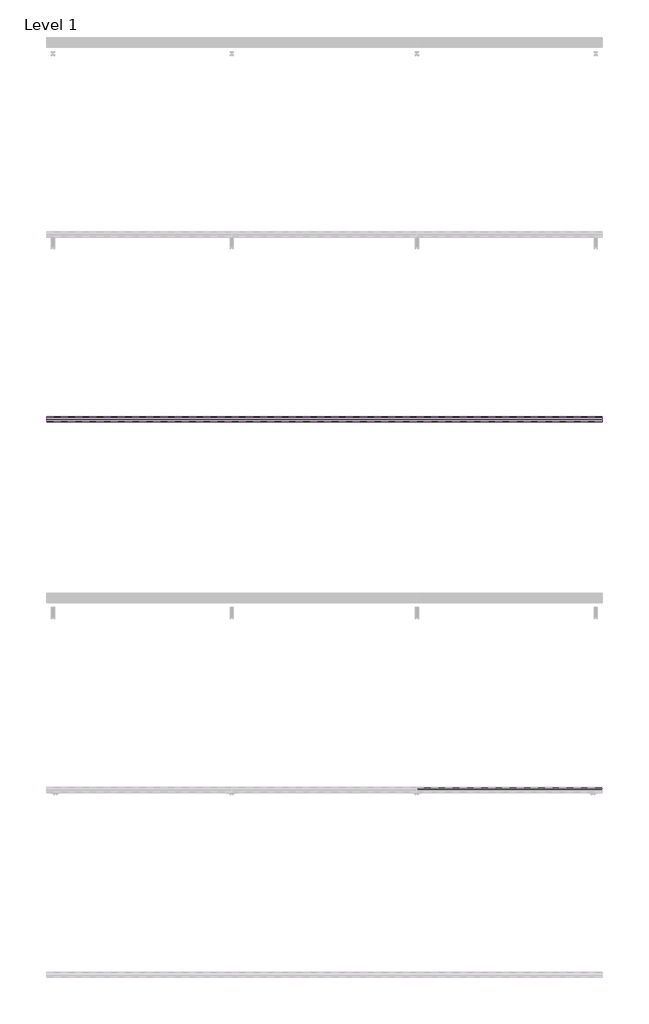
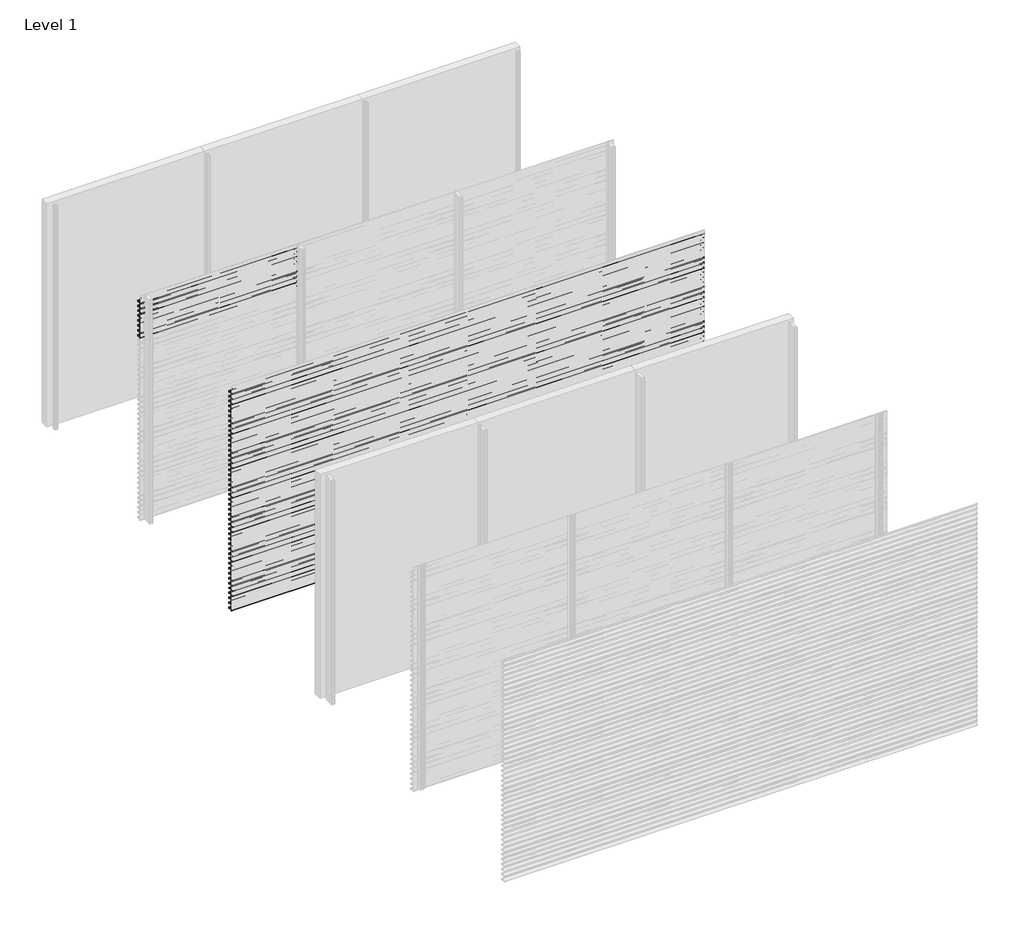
# One storey, part 5 of 27: 71 proxies.
"""IFC4 building model written with IfcOpenShell, lengths in millimetres."""

from ifc_helpers import new_model, si_unit, frame, origin, place, context, project, spatial, polyline, outline, extrude, element, save

model = new_model("IFC4")

# Units and contexts
model_context = context("Model", 3, world=origin())
ifc_project = project(units=[si_unit("LENGTHUNIT", "METRE", prefix="MILLI")], contexts=[model_context])

# Site, building, storey
site = spatial("IfcSite", under=ifc_project)
building = spatial("IfcBuilding", under=site)
storey = spatial("IfcBuildingStorey", under=building, Name="Level 1", Elevation=0.0)

# Proxies
placement = place(None, origin())
element("IfcBuildingElementProxy", 1, Name="Wall Sweeps", at=placement, inside=storey, context=model_context, shape_type="SweptSolid", body=[
    extrude(outline(polyline([(-47943.0, 2913.2), (-47943.0, 2893.5), (-47944.25, 2894.5866084), (-47944.25, 2912.4872415), (-47963.0322086, 2925.6010889), (-47995.1332975, 2893.5), (-47996.0525363, 2894.4192388), (-47964.1148087, 2926.3569665), (-47998.0, 2950.0158044), (-47998.0, 2970.0), (-47996.75, 2970.0), (-47996.75, 2950.7285629), (-47943.0, 2913.2)])), frame((0.0, 0.0, 0.0), z_axis=(1.0, 0.0, 0.0), x_axis=(0.0, 1.0, 0.0)), (0.0, 0.0, 1.0), 2000.0),
])
element("IfcBuildingElementProxy", 2, Name="Wall Sweeps", at=placement, inside=storey, context=model_context, shape_type="SweptSolid", body=[
    extrude(outline(polyline([(-47943.0, 2847.2), (-47943.0, 2827.5), (-47944.25, 2828.5866084), (-47944.25, 2846.4872415), (-47963.0322086, 2859.6010889), (-47995.1332975, 2827.5), (-47996.0525363, 2828.4192388), (-47964.1148087, 2860.3569665), (-47998.0, 2884.0158044), (-47998.0, 2904.0), (-47996.75, 2904.0), (-47996.75, 2884.7285629), (-47943.0, 2847.2)])), frame((0.0, 0.0, 0.0), z_axis=(1.0, 0.0, 0.0), x_axis=(0.0, 1.0, 0.0)), (0.0, 0.0, 1.0), 2000.0),
])
element("IfcBuildingElementProxy", 3, Name="Wall Sweeps", at=placement, inside=storey, context=model_context, shape_type="SweptSolid", body=[
    extrude(outline(polyline([(-47943.0, 2781.2), (-47943.0, 2761.5), (-47944.25, 2762.5866084), (-47944.25, 2780.4872415), (-47963.0322086, 2793.6010889), (-47995.1332975, 2761.5), (-47996.0525363, 2762.4192388), (-47964.1148087, 2794.3569665), (-47998.0, 2818.0158044), (-47998.0, 2838.0), (-47996.75, 2838.0), (-47996.75, 2818.7285629), (-47943.0, 2781.2)])), frame((0.0, 0.0, 0.0), z_axis=(1.0, 0.0, 0.0), x_axis=(0.0, 1.0, 0.0)), (0.0, 0.0, 1.0), 2000.0),
])
element("IfcBuildingElementProxy", 4, Name="Wall Sweeps", at=placement, inside=storey, context=model_context, shape_type="SweptSolid", body=[
    extrude(outline(polyline([(-47943.0, 2715.2), (-47943.0, 2695.5), (-47944.25, 2696.5866084), (-47944.25, 2714.4872415), (-47963.0322086, 2727.6010889), (-47995.1332975, 2695.5), (-47996.0525363, 2696.4192388), (-47964.1148087, 2728.3569665), (-47998.0, 2752.0158044), (-47998.0, 2772.0), (-47996.75, 2772.0), (-47996.75, 2752.7285629), (-47943.0, 2715.2)])), frame((0.0, 0.0, 0.0), z_axis=(1.0, 0.0, 0.0), x_axis=(0.0, 1.0, 0.0)), (0.0, 0.0, 1.0), 2000.0),
])
element("IfcBuildingElementProxy", 5, Name="Wall Sweeps", at=placement, inside=storey, context=model_context, shape_type="SweptSolid", body=[
    extrude(outline(polyline([(-47943.0, 2649.2), (-47943.0, 2629.5), (-47944.25, 2630.5866084), (-47944.25, 2648.4872415), (-47963.0322086, 2661.6010889), (-47995.1332975, 2629.5), (-47996.0525363, 2630.4192388), (-47964.1148087, 2662.3569665), (-47998.0, 2686.0158044), (-47998.0, 2706.0), (-47996.75, 2706.0), (-47996.75, 2686.7285629), (-47943.0, 2649.2)])), frame((0.0, 0.0, 0.0), z_axis=(1.0, 0.0, 0.0), x_axis=(0.0, 1.0, 0.0)), (0.0, 0.0, 1.0), 2000.0),
])
element("IfcBuildingElementProxy", 6, Name="Wall Sweeps", at=placement, inside=storey, context=model_context, shape_type="SweptSolid", body=[
    extrude(outline(polyline([(-47943.0, 2583.2), (-47943.0, 2563.5), (-47944.25, 2564.5866084), (-47944.25, 2582.4872415), (-47963.0322086, 2595.6010889), (-47995.1332975, 2563.5), (-47996.0525363, 2564.4192388), (-47964.1148087, 2596.3569665), (-47998.0, 2620.0158044), (-47998.0, 2640.0), (-47996.75, 2640.0), (-47996.75, 2620.7285629), (-47943.0, 2583.2)])), frame((0.0, 0.0, 0.0), z_axis=(1.0, 0.0, 0.0), x_axis=(0.0, 1.0, 0.0)), (0.0, 0.0, 1.0), 2000.0),
])
element("IfcBuildingElementProxy", 7, Name="Wall Sweeps", at=placement, inside=storey, context=model_context, shape_type="SweptSolid", body=[
    extrude(outline(polyline([(-47943.0, 2517.2), (-47943.0, 2497.5), (-47944.25, 2498.5866084), (-47944.25, 2516.4872415), (-47963.0322086, 2529.6010889), (-47995.1332975, 2497.5), (-47996.0525363, 2498.4192388), (-47964.1148087, 2530.3569665), (-47998.0, 2554.0158044), (-47998.0, 2574.0), (-47996.75, 2574.0), (-47996.75, 2554.7285629), (-47943.0, 2517.2)])), frame((0.0, 0.0, 0.0), z_axis=(1.0, 0.0, 0.0), x_axis=(0.0, 1.0, 0.0)), (0.0, 0.0, 1.0), 2000.0),
])
element("IfcBuildingElementProxy", 8, Name="Wall Sweeps", at=placement, inside=storey, context=model_context, shape_type="SweptSolid", body=[
    extrude(outline(polyline([(-47943.0, 2451.2), (-47943.0, 2431.5), (-47944.25, 2432.5866084), (-47944.25, 2450.4872415), (-47963.0322086, 2463.6010889), (-47995.1332975, 2431.5), (-47996.0525363, 2432.4192388), (-47964.1148087, 2464.3569665), (-47998.0, 2488.0158044), (-47998.0, 2508.0), (-47996.75, 2508.0), (-47996.75, 2488.7285629), (-47943.0, 2451.2)])), frame((0.0, 0.0, 0.0), z_axis=(1.0, 0.0, 0.0), x_axis=(0.0, 1.0, 0.0)), (0.0, 0.0, 1.0), 2000.0),
])
element("IfcBuildingElementProxy", 9, Name="Wall Sweeps", at=placement, inside=storey, context=model_context, shape_type="SweptSolid", body=[
    extrude(outline(polyline([(-49943.0, 2913.2), (-49943.0, 2893.5), (-49944.25, 2894.5866084), (-49944.25, 2912.4872415), (-49963.0322086, 2925.6010889), (-49995.1332975, 2893.5), (-49996.0525363, 2894.4192388), (-49964.1148087, 2926.3569665), (-49998.0, 2950.0158044), (-49998.0, 2970.0), (-49996.75, 2970.0), (-49996.75, 2950.7285629), (-49943.0, 2913.2)])), frame((0.0, 0.0, 0.0), z_axis=(1.0, 0.0, 0.0), x_axis=(0.0, 1.0, 0.0)), (0.0, 0.0, 1.0), 6000.0),
])
element("IfcBuildingElementProxy", 10, Name="Wall Sweeps", at=placement, inside=storey, context=model_context, shape_type="SweptSolid", body=[
    extrude(outline(polyline([(-49943.0, 2847.2), (-49943.0, 2827.5), (-49944.25, 2828.5866084), (-49944.25, 2846.4872415), (-49963.0322086, 2859.6010889), (-49995.1332975, 2827.5), (-49996.0525363, 2828.4192388), (-49964.1148087, 2860.3569665), (-49998.0, 2884.0158044), (-49998.0, 2904.0), (-49996.75, 2904.0), (-49996.75, 2884.7285629), (-49943.0, 2847.2)])), frame((0.0, 0.0, 0.0), z_axis=(1.0, 0.0, 0.0), x_axis=(0.0, 1.0, 0.0)), (0.0, 0.0, 1.0), 6000.0),
])
element("IfcBuildingElementProxy", 11, Name="Wall Sweeps", at=placement, inside=storey, context=model_context, shape_type="SweptSolid", body=[
    extrude(outline(polyline([(-49943.0, 2781.2), (-49943.0, 2761.5), (-49944.25, 2762.5866084), (-49944.25, 2780.4872415), (-49963.0322086, 2793.6010889), (-49995.1332975, 2761.5), (-49996.0525363, 2762.4192388), (-49964.1148087, 2794.3569665), (-49998.0, 2818.0158044), (-49998.0, 2838.0), (-49996.75, 2838.0), (-49996.75, 2818.7285629), (-49943.0, 2781.2)])), frame((0.0, 0.0, 0.0), z_axis=(1.0, 0.0, 0.0), x_axis=(0.0, 1.0, 0.0)), (0.0, 0.0, 1.0), 6000.0),
])
element("IfcBuildingElementProxy", 12, Name="Wall Sweeps", at=placement, inside=storey, context=model_context, shape_type="SweptSolid", body=[
    extrude(outline(polyline([(-49943.0, 2715.2), (-49943.0, 2695.5), (-49944.25, 2696.5866084), (-49944.25, 2714.4872415), (-49963.0322086, 2727.6010889), (-49995.1332975, 2695.5), (-49996.0525363, 2696.4192388), (-49964.1148087, 2728.3569665), (-49998.0, 2752.0158044), (-49998.0, 2772.0), (-49996.75, 2772.0), (-49996.75, 2752.7285629), (-49943.0, 2715.2)])), frame((0.0, 0.0, 0.0), z_axis=(1.0, 0.0, 0.0), x_axis=(0.0, 1.0, 0.0)), (0.0, 0.0, 1.0), 6000.0),
])
element("IfcBuildingElementProxy", 13, Name="Wall Sweeps", at=placement, inside=storey, context=model_context, shape_type="SweptSolid", body=[
    extrude(outline(polyline([(-49943.0, 2649.2), (-49943.0, 2629.5), (-49944.25, 2630.5866084), (-49944.25, 2648.4872415), (-49963.0322086, 2661.6010889), (-49995.1332975, 2629.5), (-49996.0525363, 2630.4192388), (-49964.1148087, 2662.3569665), (-49998.0, 2686.0158044), (-49998.0, 2706.0), (-49996.75, 2706.0), (-49996.75, 2686.7285629), (-49943.0, 2649.2)])), frame((0.0, 0.0, 0.0), z_axis=(1.0, 0.0, 0.0), x_axis=(0.0, 1.0, 0.0)), (0.0, 0.0, 1.0), 6000.0),
])
element("IfcBuildingElementProxy", 14, Name="Wall Sweeps", at=placement, inside=storey, context=model_context, shape_type="SweptSolid", body=[
    extrude(outline(polyline([(-49943.0, 2583.2), (-49943.0, 2563.5), (-49944.25, 2564.5866084), (-49944.25, 2582.4872415), (-49963.0322086, 2595.6010889), (-49995.1332975, 2563.5), (-49996.0525363, 2564.4192388), (-49964.1148087, 2596.3569665), (-49998.0, 2620.0158044), (-49998.0, 2640.0), (-49996.75, 2640.0), (-49996.75, 2620.7285629), (-49943.0, 2583.2)])), frame((0.0, 0.0, 0.0), z_axis=(1.0, 0.0, 0.0), x_axis=(0.0, 1.0, 0.0)), (0.0, 0.0, 1.0), 6000.0),
])
element("IfcBuildingElementProxy", 15, Name="Wall Sweeps", at=placement, inside=storey, context=model_context, shape_type="SweptSolid", body=[
    extrude(outline(polyline([(-49943.0, 2517.2), (-49943.0, 2497.5), (-49944.25, 2498.5866084), (-49944.25, 2516.4872415), (-49963.0322086, 2529.6010889), (-49995.1332975, 2497.5), (-49996.0525363, 2498.4192388), (-49964.1148087, 2530.3569665), (-49998.0, 2554.0158044), (-49998.0, 2574.0), (-49996.75, 2574.0), (-49996.75, 2554.7285629), (-49943.0, 2517.2)])), frame((0.0, 0.0, 0.0), z_axis=(1.0, 0.0, 0.0), x_axis=(0.0, 1.0, 0.0)), (0.0, 0.0, 1.0), 6000.0),
])
element("IfcBuildingElementProxy", 16, Name="Wall Sweeps", at=placement, inside=storey, context=model_context, shape_type="SweptSolid", body=[
    extrude(outline(polyline([(-49943.0, 2451.2), (-49943.0, 2431.5), (-49944.25, 2432.5866084), (-49944.25, 2450.4872415), (-49963.0322086, 2463.6010889), (-49995.1332975, 2431.5), (-49996.0525363, 2432.4192388), (-49964.1148087, 2464.3569665), (-49998.0, 2488.0158044), (-49998.0, 2508.0), (-49996.75, 2508.0), (-49996.75, 2488.7285629), (-49943.0, 2451.2)])), frame((0.0, 0.0, 0.0), z_axis=(1.0, 0.0, 0.0), x_axis=(0.0, 1.0, 0.0)), (0.0, 0.0, 1.0), 6000.0),
])
element("IfcBuildingElementProxy", 17, Name="Wall Sweeps", at=placement, inside=storey, context=model_context, shape_type="SweptSolid", body=[
    extrude(outline(polyline([(-49943.0, 2385.2), (-49943.0, 2365.5), (-49944.25, 2366.5866084), (-49944.25, 2384.4872415), (-49963.0322086, 2397.6010889), (-49995.1332975, 2365.5), (-49996.0525363, 2366.4192388), (-49964.1148087, 2398.3569665), (-49998.0, 2422.0158044), (-49998.0, 2442.0), (-49996.75, 2442.0), (-49996.75, 2422.7285629), (-49943.0, 2385.2)])), frame((0.0, 0.0, 0.0), z_axis=(1.0, 0.0, 0.0), x_axis=(0.0, 1.0, 0.0)), (0.0, 0.0, 1.0), 6000.0),
])
element("IfcBuildingElementProxy", 18, Name="Wall Sweeps", at=placement, inside=storey, context=model_context, shape_type="SweptSolid", body=[
    extrude(outline(polyline([(-49943.0, 2319.2), (-49943.0, 2299.5), (-49944.25, 2300.5866084), (-49944.25, 2318.4872415), (-49963.0322086, 2331.6010889), (-49995.1332975, 2299.5), (-49996.0525363, 2300.4192388), (-49964.1148087, 2332.3569665), (-49998.0, 2356.0158044), (-49998.0, 2376.0), (-49996.75, 2376.0), (-49996.75, 2356.7285629), (-49943.0, 2319.2)])), frame((0.0, 0.0, 0.0), z_axis=(1.0, 0.0, 0.0), x_axis=(0.0, 1.0, 0.0)), (0.0, 0.0, 1.0), 6000.0),
])
element("IfcBuildingElementProxy", 19, Name="Wall Sweeps", at=placement, inside=storey, context=model_context, shape_type="SweptSolid", body=[
    extrude(outline(polyline([(-49943.0, 2253.2), (-49943.0, 2233.5), (-49944.25, 2234.5866084), (-49944.25, 2252.4872415), (-49963.0322086, 2265.6010889), (-49995.1332975, 2233.5), (-49996.0525363, 2234.4192388), (-49964.1148087, 2266.3569665), (-49998.0, 2290.0158044), (-49998.0, 2310.0), (-49996.75, 2310.0), (-49996.75, 2290.7285629), (-49943.0, 2253.2)])), frame((0.0, 0.0, 0.0), z_axis=(1.0, 0.0, 0.0), x_axis=(0.0, 1.0, 0.0)), (0.0, 0.0, 1.0), 6000.0),
])
element("IfcBuildingElementProxy", 20, Name="Wall Sweeps", at=placement, inside=storey, context=model_context, shape_type="SweptSolid", body=[
    extrude(outline(polyline([(-49943.0, 2187.2), (-49943.0, 2167.5), (-49944.25, 2168.5866084), (-49944.25, 2186.4872415), (-49963.0322086, 2199.6010889), (-49995.1332975, 2167.5), (-49996.0525363, 2168.4192388), (-49964.1148087, 2200.3569665), (-49998.0, 2224.0158044), (-49998.0, 2244.0), (-49996.75, 2244.0), (-49996.75, 2224.7285629), (-49943.0, 2187.2)])), frame((0.0, 0.0, 0.0), z_axis=(1.0, 0.0, 0.0), x_axis=(0.0, 1.0, 0.0)), (0.0, 0.0, 1.0), 6000.0),
])
element("IfcBuildingElementProxy", 21, Name="Wall Sweeps", at=placement, inside=storey, context=model_context, shape_type="SweptSolid", body=[
    extrude(outline(polyline([(-49943.0, 2121.2), (-49943.0, 2101.5), (-49944.25, 2102.5866084), (-49944.25, 2120.4872415), (-49963.0322086, 2133.6010889), (-49995.1332975, 2101.5), (-49996.0525363, 2102.4192388), (-49964.1148087, 2134.3569665), (-49998.0, 2158.0158044), (-49998.0, 2178.0), (-49996.75, 2178.0), (-49996.75, 2158.7285629), (-49943.0, 2121.2)])), frame((0.0, 0.0, 0.0), z_axis=(1.0, 0.0, 0.0), x_axis=(0.0, 1.0, 0.0)), (0.0, 0.0, 1.0), 6000.0),
])
element("IfcBuildingElementProxy", 22, Name="Wall Sweeps", at=placement, inside=storey, context=model_context, shape_type="SweptSolid", body=[
    extrude(outline(polyline([(-49943.0, 2055.2), (-49943.0, 2035.5), (-49944.25, 2036.5866084), (-49944.25, 2054.4872415), (-49963.0322086, 2067.6010889), (-49995.1332975, 2035.5), (-49996.0525363, 2036.4192388), (-49964.1148087, 2068.3569665), (-49998.0, 2092.0158044), (-49998.0, 2112.0), (-49996.75, 2112.0), (-49996.75, 2092.7285629), (-49943.0, 2055.2)])), frame((0.0, 0.0, 0.0), z_axis=(1.0, 0.0, 0.0), x_axis=(0.0, 1.0, 0.0)), (0.0, 0.0, 1.0), 6000.0),
])
element("IfcBuildingElementProxy", 23, Name="Wall Sweeps", at=placement, inside=storey, context=model_context, shape_type="SweptSolid", body=[
    extrude(outline(polyline([(-49943.0, 1989.2), (-49943.0, 1969.5), (-49944.25, 1970.5866084), (-49944.25, 1988.4872415), (-49963.0322086, 2001.6010889), (-49995.1332975, 1969.5), (-49996.0525363, 1970.4192388), (-49964.1148087, 2002.3569665), (-49998.0, 2026.0158044), (-49998.0, 2046.0), (-49996.75, 2046.0), (-49996.75, 2026.7285629), (-49943.0, 1989.2)])), frame((0.0, 0.0, 0.0), z_axis=(1.0, 0.0, 0.0), x_axis=(0.0, 1.0, 0.0)), (0.0, 0.0, 1.0), 6000.0),
])
element("IfcBuildingElementProxy", 24, Name="Wall Sweeps", at=placement, inside=storey, context=model_context, shape_type="SweptSolid", body=[
    extrude(outline(polyline([(-49943.0, 1923.2), (-49943.0, 1903.5), (-49944.25, 1904.5866084), (-49944.25, 1922.4872415), (-49963.0322086, 1935.6010889), (-49995.1332975, 1903.5), (-49996.0525363, 1904.4192388), (-49964.1148087, 1936.3569665), (-49998.0, 1960.0158044), (-49998.0, 1980.0), (-49996.75, 1980.0), (-49996.75, 1960.7285629), (-49943.0, 1923.2)])), frame((0.0, 0.0, 0.0), z_axis=(1.0, 0.0, 0.0), x_axis=(0.0, 1.0, 0.0)), (0.0, 0.0, 1.0), 6000.0),
])
element("IfcBuildingElementProxy", 25, Name="Wall Sweeps", at=placement, inside=storey, context=model_context, shape_type="SweptSolid", body=[
    extrude(outline(polyline([(-49943.0, 1857.2), (-49943.0, 1837.5), (-49944.25, 1838.5866084), (-49944.25, 1856.4872415), (-49963.0322086, 1869.6010889), (-49995.1332975, 1837.5), (-49996.0525363, 1838.4192388), (-49964.1148087, 1870.3569665), (-49998.0, 1894.0158044), (-49998.0, 1914.0), (-49996.75, 1914.0), (-49996.75, 1894.7285629), (-49943.0, 1857.2)])), frame((0.0, 0.0, 0.0), z_axis=(1.0, 0.0, 0.0), x_axis=(0.0, 1.0, 0.0)), (0.0, 0.0, 1.0), 6000.0),
])
element("IfcBuildingElementProxy", 26, Name="Wall Sweeps", at=placement, inside=storey, context=model_context, shape_type="SweptSolid", body=[
    extrude(outline(polyline([(-49943.0, 1791.2), (-49943.0, 1771.5), (-49944.25, 1772.5866084), (-49944.25, 1790.4872415), (-49963.0322086, 1803.6010889), (-49995.1332975, 1771.5), (-49996.0525363, 1772.4192388), (-49964.1148087, 1804.3569665), (-49998.0, 1828.0158044), (-49998.0, 1848.0), (-49996.75, 1848.0), (-49996.75, 1828.7285629), (-49943.0, 1791.2)])), frame((0.0, 0.0, 0.0), z_axis=(1.0, 0.0, 0.0), x_axis=(0.0, 1.0, 0.0)), (0.0, 0.0, 1.0), 6000.0),
])
element("IfcBuildingElementProxy", 27, Name="Wall Sweeps", at=placement, inside=storey, context=model_context, shape_type="SweptSolid", body=[
    extrude(outline(polyline([(-49943.0, 1725.2), (-49943.0, 1705.5), (-49944.25, 1706.5866084), (-49944.25, 1724.4872415), (-49963.0322086, 1737.6010889), (-49995.1332975, 1705.5), (-49996.0525363, 1706.4192388), (-49964.1148087, 1738.3569665), (-49998.0, 1762.0158044), (-49998.0, 1782.0), (-49996.75, 1782.0), (-49996.75, 1762.7285629), (-49943.0, 1725.2)])), frame((0.0, 0.0, 0.0), z_axis=(1.0, 0.0, 0.0), x_axis=(0.0, 1.0, 0.0)), (0.0, 0.0, 1.0), 6000.0),
])
element("IfcBuildingElementProxy", 28, Name="Wall Sweeps", at=placement, inside=storey, context=model_context, shape_type="SweptSolid", body=[
    extrude(outline(polyline([(-49943.0, 1659.2), (-49943.0, 1639.5), (-49944.25, 1640.5866084), (-49944.25, 1658.4872415), (-49963.0322086, 1671.6010889), (-49995.1332975, 1639.5), (-49996.0525363, 1640.4192388), (-49964.1148087, 1672.3569665), (-49998.0, 1696.0158044), (-49998.0, 1716.0), (-49996.75, 1716.0), (-49996.75, 1696.7285629), (-49943.0, 1659.2)])), frame((0.0, 0.0, 0.0), z_axis=(1.0, 0.0, 0.0), x_axis=(0.0, 1.0, 0.0)), (0.0, 0.0, 1.0), 6000.0),
])
element("IfcBuildingElementProxy", 29, Name="Wall Sweeps", at=placement, inside=storey, context=model_context, shape_type="SweptSolid", body=[
    extrude(outline(polyline([(-49943.0, 1593.2), (-49943.0, 1573.5), (-49944.25, 1574.5866084), (-49944.25, 1592.4872415), (-49963.0322086, 1605.6010889), (-49995.1332975, 1573.5), (-49996.0525363, 1574.4192388), (-49964.1148087, 1606.3569665), (-49998.0, 1630.0158044), (-49998.0, 1650.0), (-49996.75, 1650.0), (-49996.75, 1630.7285629), (-49943.0, 1593.2)])), frame((0.0, 0.0, 0.0), z_axis=(1.0, 0.0, 0.0), x_axis=(0.0, 1.0, 0.0)), (0.0, 0.0, 1.0), 6000.0),
])
element("IfcBuildingElementProxy", 30, Name="Wall Sweeps", at=placement, inside=storey, context=model_context, shape_type="SweptSolid", body=[
    extrude(outline(polyline([(-49943.0, 1527.2), (-49943.0, 1507.5), (-49944.25, 1508.5866084), (-49944.25, 1526.4872415), (-49963.0322086, 1539.6010889), (-49995.1332975, 1507.5), (-49996.0525363, 1508.4192388), (-49964.1148087, 1540.3569665), (-49998.0, 1564.0158044), (-49998.0, 1584.0), (-49996.75, 1584.0), (-49996.75, 1564.7285629), (-49943.0, 1527.2)])), frame((0.0, 0.0, 0.0), z_axis=(1.0, 0.0, 0.0), x_axis=(0.0, 1.0, 0.0)), (0.0, 0.0, 1.0), 6000.0),
])
element("IfcBuildingElementProxy", 31, Name="Wall Sweeps", at=placement, inside=storey, context=model_context, shape_type="SweptSolid", body=[
    extrude(outline(polyline([(-49943.0, 1461.2), (-49943.0, 1441.5), (-49944.25, 1442.5866084), (-49944.25, 1460.4872415), (-49963.0322086, 1473.6010889), (-49995.1332975, 1441.5), (-49996.0525363, 1442.4192388), (-49964.1148087, 1474.3569665), (-49998.0, 1498.0158044), (-49998.0, 1518.0), (-49996.75, 1518.0), (-49996.75, 1498.7285629), (-49943.0, 1461.2)])), frame((0.0, 0.0, 0.0), z_axis=(1.0, 0.0, 0.0), x_axis=(0.0, 1.0, 0.0)), (0.0, 0.0, 1.0), 6000.0),
])
element("IfcBuildingElementProxy", 32, Name="Wall Sweeps", at=placement, inside=storey, context=model_context, shape_type="SweptSolid", body=[
    extrude(outline(polyline([(-49943.0, 1395.2), (-49943.0, 1375.5), (-49944.25, 1376.5866084), (-49944.25, 1394.4872415), (-49963.0322086, 1407.6010889), (-49995.1332975, 1375.5), (-49996.0525363, 1376.4192388), (-49964.1148087, 1408.3569665), (-49998.0, 1432.0158044), (-49998.0, 1452.0), (-49996.75, 1452.0), (-49996.75, 1432.7285629), (-49943.0, 1395.2)])), frame((0.0, 0.0, 0.0), z_axis=(1.0, 0.0, 0.0), x_axis=(0.0, 1.0, 0.0)), (0.0, 0.0, 1.0), 6000.0),
])
element("IfcBuildingElementProxy", 33, Name="Wall Sweeps", at=placement, inside=storey, context=model_context, shape_type="SweptSolid", body=[
    extrude(outline(polyline([(-49943.0, 1329.2), (-49943.0, 1309.5), (-49944.25, 1310.5866084), (-49944.25, 1328.4872415), (-49963.0322086, 1341.6010889), (-49995.1332975, 1309.5), (-49996.0525363, 1310.4192388), (-49964.1148087, 1342.3569665), (-49998.0, 1366.0158044), (-49998.0, 1386.0), (-49996.75, 1386.0), (-49996.75, 1366.7285629), (-49943.0, 1329.2)])), frame((0.0, 0.0, 0.0), z_axis=(1.0, 0.0, 0.0), x_axis=(0.0, 1.0, 0.0)), (0.0, 0.0, 1.0), 6000.0),
])
element("IfcBuildingElementProxy", 34, Name="Wall Sweeps", at=placement, inside=storey, context=model_context, shape_type="SweptSolid", body=[
    extrude(outline(polyline([(-49943.0, 1263.2), (-49943.0, 1243.5), (-49944.25, 1244.5866084), (-49944.25, 1262.4872415), (-49963.0322086, 1275.6010889), (-49995.1332975, 1243.5), (-49996.0525363, 1244.4192388), (-49964.1148087, 1276.3569665), (-49998.0, 1300.0158044), (-49998.0, 1320.0), (-49996.75, 1320.0), (-49996.75, 1300.7285629), (-49943.0, 1263.2)])), frame((0.0, 0.0, 0.0), z_axis=(1.0, 0.0, 0.0), x_axis=(0.0, 1.0, 0.0)), (0.0, 0.0, 1.0), 6000.0),
])
element("IfcBuildingElementProxy", 35, Name="Wall Sweeps", at=placement, inside=storey, context=model_context, shape_type="SweptSolid", body=[
    extrude(outline(polyline([(-49943.0, 1197.2), (-49943.0, 1177.5), (-49944.25, 1178.5866084), (-49944.25, 1196.4872415), (-49963.0322086, 1209.6010889), (-49995.1332975, 1177.5), (-49996.0525363, 1178.4192388), (-49964.1148087, 1210.3569665), (-49998.0, 1234.0158044), (-49998.0, 1254.0), (-49996.75, 1254.0), (-49996.75, 1234.7285629), (-49943.0, 1197.2)])), frame((0.0, 0.0, 0.0), z_axis=(1.0, 0.0, 0.0), x_axis=(0.0, 1.0, 0.0)), (0.0, 0.0, 1.0), 6000.0),
])
element("IfcBuildingElementProxy", 36, Name="Wall Sweeps", at=placement, inside=storey, context=model_context, shape_type="SweptSolid", body=[
    extrude(outline(polyline([(-49943.0, 1131.2), (-49943.0, 1111.5), (-49944.25, 1112.5866084), (-49944.25, 1130.4872415), (-49963.0322086, 1143.6010889), (-49995.1332975, 1111.5), (-49996.0525363, 1112.4192388), (-49964.1148087, 1144.3569665), (-49998.0, 1168.0158044), (-49998.0, 1188.0), (-49996.75, 1188.0), (-49996.75, 1168.7285629), (-49943.0, 1131.2)])), frame((0.0, 0.0, 0.0), z_axis=(1.0, 0.0, 0.0), x_axis=(0.0, 1.0, 0.0)), (0.0, 0.0, 1.0), 6000.0),
])
element("IfcBuildingElementProxy", 37, Name="Wall Sweeps", at=placement, inside=storey, context=model_context, shape_type="SweptSolid", body=[
    extrude(outline(polyline([(-49943.0, 1065.2), (-49943.0, 1045.5), (-49944.25, 1046.5866084), (-49944.25, 1064.4872415), (-49963.0322086, 1077.6010889), (-49995.1332975, 1045.5), (-49996.0525363, 1046.4192388), (-49964.1148087, 1078.3569665), (-49998.0, 1102.0158044), (-49998.0, 1122.0), (-49996.75, 1122.0), (-49996.75, 1102.7285629), (-49943.0, 1065.2)])), frame((0.0, 0.0, 0.0), z_axis=(1.0, 0.0, 0.0), x_axis=(0.0, 1.0, 0.0)), (0.0, 0.0, 1.0), 6000.0),
])
element("IfcBuildingElementProxy", 38, Name="Wall Sweeps", at=placement, inside=storey, context=model_context, shape_type="SweptSolid", body=[
    extrude(outline(polyline([(-49943.0, 999.2), (-49943.0, 979.5), (-49944.25, 980.5866084), (-49944.25, 998.4872415), (-49963.0322086, 1011.6010889), (-49995.1332975, 979.5), (-49996.0525363, 980.4192388), (-49964.1148087, 1012.3569665), (-49998.0, 1036.0158044), (-49998.0, 1056.0), (-49996.75, 1056.0), (-49996.75, 1036.7285629), (-49943.0, 999.2)])), frame((0.0, 0.0, 0.0), z_axis=(1.0, 0.0, 0.0), x_axis=(0.0, 1.0, 0.0)), (0.0, 0.0, 1.0), 6000.0),
])
element("IfcBuildingElementProxy", 39, Name="Wall Sweeps", at=placement, inside=storey, context=model_context, shape_type="SweptSolid", body=[
    extrude(outline(polyline([(-49943.0, 933.2), (-49943.0, 913.5), (-49944.25, 914.5866084), (-49944.25, 932.4872415), (-49963.0322086, 945.6010889), (-49995.1332975, 913.5), (-49996.0525363, 914.4192388), (-49964.1148087, 946.3569665), (-49998.0, 970.0158044), (-49998.0, 990.0), (-49996.75, 990.0), (-49996.75, 970.7285629), (-49943.0, 933.2)])), frame((0.0, 0.0, 0.0), z_axis=(1.0, 0.0, 0.0), x_axis=(0.0, 1.0, 0.0)), (0.0, 0.0, 1.0), 6000.0),
])
element("IfcBuildingElementProxy", 40, Name="Wall Sweeps", at=placement, inside=storey, context=model_context, shape_type="SweptSolid", body=[
    extrude(outline(polyline([(-49943.0, 867.2), (-49943.0, 847.5), (-49944.25, 848.5866084), (-49944.25, 866.4872415), (-49963.0322086, 879.6010889), (-49995.1332975, 847.5), (-49996.0525363, 848.4192388), (-49964.1148087, 880.3569665), (-49998.0, 904.0158044), (-49998.0, 924.0), (-49996.75, 924.0), (-49996.75, 904.7285629), (-49943.0, 867.2)])), frame((0.0, 0.0, 0.0), z_axis=(1.0, 0.0, 0.0), x_axis=(0.0, 1.0, 0.0)), (0.0, 0.0, 1.0), 6000.0),
])
element("IfcBuildingElementProxy", 41, Name="Wall Sweeps", at=placement, inside=storey, context=model_context, shape_type="SweptSolid", body=[
    extrude(outline(polyline([(-49943.0, 801.2), (-49943.0, 781.5), (-49944.25, 782.5866084), (-49944.25, 800.4872415), (-49963.0322086, 813.6010889), (-49995.1332975, 781.5), (-49996.0525363, 782.4192388), (-49964.1148087, 814.3569665), (-49998.0, 838.0158044), (-49998.0, 858.0), (-49996.75, 858.0), (-49996.75, 838.7285629), (-49943.0, 801.2)])), frame((0.0, 0.0, 0.0), z_axis=(1.0, 0.0, 0.0), x_axis=(0.0, 1.0, 0.0)), (0.0, 0.0, 1.0), 6000.0),
])
element("IfcBuildingElementProxy", 42, Name="Wall Sweeps", at=placement, inside=storey, context=model_context, shape_type="SweptSolid", body=[
    extrude(outline(polyline([(-49943.0, 735.2), (-49943.0, 715.5), (-49944.25, 716.5866084), (-49944.25, 734.4872415), (-49963.0322086, 747.6010889), (-49995.1332975, 715.5), (-49996.0525363, 716.4192388), (-49964.1148087, 748.3569665), (-49998.0, 772.0158044), (-49998.0, 792.0), (-49996.75, 792.0), (-49996.75, 772.7285629), (-49943.0, 735.2)])), frame((0.0, 0.0, 0.0), z_axis=(1.0, 0.0, 0.0), x_axis=(0.0, 1.0, 0.0)), (0.0, 0.0, 1.0), 6000.0),
])
element("IfcBuildingElementProxy", 43, Name="Wall Sweeps", at=placement, inside=storey, context=model_context, shape_type="SweptSolid", body=[
    extrude(outline(polyline([(-49943.0, 669.2), (-49943.0, 649.5), (-49944.25, 650.5866084), (-49944.25, 668.4872415), (-49963.0322086, 681.6010889), (-49995.1332975, 649.5), (-49996.0525363, 650.4192388), (-49964.1148087, 682.3569665), (-49998.0, 706.0158044), (-49998.0, 726.0), (-49996.75, 726.0), (-49996.75, 706.7285629), (-49943.0, 669.2)])), frame((0.0, 0.0, 0.0), z_axis=(1.0, 0.0, 0.0), x_axis=(0.0, 1.0, 0.0)), (0.0, 0.0, 1.0), 6000.0),
])
element("IfcBuildingElementProxy", 44, Name="Wall Sweeps", at=placement, inside=storey, context=model_context, shape_type="SweptSolid", body=[
    extrude(outline(polyline([(-49943.0, 603.2), (-49943.0, 583.5), (-49944.25, 584.5866084), (-49944.25, 602.4872415), (-49963.0322086, 615.6010889), (-49995.1332975, 583.5), (-49996.0525363, 584.4192388), (-49964.1148087, 616.3569665), (-49998.0, 640.0158044), (-49998.0, 660.0), (-49996.75, 660.0), (-49996.75, 640.7285629), (-49943.0, 603.2)])), frame((0.0, 0.0, 0.0), z_axis=(1.0, 0.0, 0.0), x_axis=(0.0, 1.0, 0.0)), (0.0, 0.0, 1.0), 6000.0),
])
element("IfcBuildingElementProxy", 45, Name="Wall Sweeps", at=placement, inside=storey, context=model_context, shape_type="SweptSolid", body=[
    extrude(outline(polyline([(-49943.0, 537.2), (-49943.0, 517.5), (-49944.25, 518.5866084), (-49944.25, 536.4872415), (-49963.0322086, 549.6010889), (-49995.1332975, 517.5), (-49996.0525363, 518.4192388), (-49964.1148087, 550.3569665), (-49998.0, 574.0158044), (-49998.0, 594.0), (-49996.75, 594.0), (-49996.75, 574.7285629), (-49943.0, 537.2)])), frame((0.0, 0.0, 0.0), z_axis=(1.0, 0.0, 0.0), x_axis=(0.0, 1.0, 0.0)), (0.0, 0.0, 1.0), 6000.0),
])
element("IfcBuildingElementProxy", 46, Name="Wall Sweeps", at=placement, inside=storey, context=model_context, shape_type="SweptSolid", body=[
    extrude(outline(polyline([(-49943.0, 471.2), (-49943.0, 451.5), (-49944.25, 452.5866084), (-49944.25, 470.4872415), (-49963.0322086, 483.6010889), (-49995.1332975, 451.5), (-49996.0525363, 452.4192388), (-49964.1148087, 484.3569665), (-49998.0, 508.0158044), (-49998.0, 528.0), (-49996.75, 528.0), (-49996.75, 508.7285629), (-49943.0, 471.2)])), frame((0.0, 0.0, 0.0), z_axis=(1.0, 0.0, 0.0), x_axis=(0.0, 1.0, 0.0)), (0.0, 0.0, 1.0), 6000.0),
])
element("IfcBuildingElementProxy", 47, Name="Wall Sweeps", at=placement, inside=storey, context=model_context, shape_type="SweptSolid", body=[
    extrude(outline(polyline([(-49943.0, 405.2), (-49943.0, 385.5), (-49944.25, 386.5866084), (-49944.25, 404.4872415), (-49963.0322086, 417.6010889), (-49995.1332975, 385.5), (-49996.0525363, 386.4192388), (-49964.1148087, 418.3569665), (-49998.0, 442.0158044), (-49998.0, 462.0), (-49996.75, 462.0), (-49996.75, 442.7285629), (-49943.0, 405.2)])), frame((0.0, 0.0, 0.0), z_axis=(1.0, 0.0, 0.0), x_axis=(0.0, 1.0, 0.0)), (0.0, 0.0, 1.0), 6000.0),
])
element("IfcBuildingElementProxy", 48, Name="Wall Sweeps", at=placement, inside=storey, context=model_context, shape_type="SweptSolid", body=[
    extrude(outline(polyline([(-49943.0, 339.2), (-49943.0, 319.5), (-49944.25, 320.5866084), (-49944.25, 338.4872415), (-49963.0322086, 351.6010889), (-49995.1332975, 319.5), (-49996.0525363, 320.4192388), (-49964.1148087, 352.3569665), (-49998.0, 376.0158044), (-49998.0, 396.0), (-49996.75, 396.0), (-49996.75, 376.7285629), (-49943.0, 339.2)])), frame((0.0, 0.0, 0.0), z_axis=(1.0, 0.0, 0.0), x_axis=(0.0, 1.0, 0.0)), (0.0, 0.0, 1.0), 6000.0),
])
element("IfcBuildingElementProxy", 49, Name="Wall Sweeps", at=placement, inside=storey, context=model_context, shape_type="SweptSolid", body=[
    extrude(outline(polyline([(-49943.0, 273.2), (-49943.0, 253.5), (-49944.25, 254.5866084), (-49944.25, 272.4872415), (-49963.0322086, 285.6010889), (-49995.1332975, 253.5), (-49996.0525363, 254.4192388), (-49964.1148087, 286.3569665), (-49998.0, 310.0158044), (-49998.0, 330.0), (-49996.75, 330.0), (-49996.75, 310.7285629), (-49943.0, 273.2)])), frame((0.0, 0.0, 0.0), z_axis=(1.0, 0.0, 0.0), x_axis=(0.0, 1.0, 0.0)), (0.0, 0.0, 1.0), 6000.0),
])
element("IfcBuildingElementProxy", 50, Name="Wall Sweeps", at=placement, inside=storey, context=model_context, shape_type="SweptSolid", body=[
    extrude(outline(polyline([(-49943.0, 207.2), (-49943.0, 187.5), (-49944.25, 188.5866084), (-49944.25, 206.4872415), (-49963.0322086, 219.6010889), (-49995.1332975, 187.5), (-49996.0525363, 188.4192388), (-49964.1148087, 220.3569665), (-49998.0, 244.0158044), (-49998.0, 264.0), (-49996.75, 264.0), (-49996.75, 244.7285629), (-49943.0, 207.2)])), frame((0.0, 0.0, 0.0), z_axis=(1.0, 0.0, 0.0), x_axis=(0.0, 1.0, 0.0)), (0.0, 0.0, 1.0), 6000.0),
])
element("IfcBuildingElementProxy", 51, Name="Wall Sweeps", at=placement, inside=storey, context=model_context, shape_type="SweptSolid", body=[
    extrude(outline(polyline([(-49943.0, 141.2), (-49943.0, 121.5), (-49944.25, 122.5866084), (-49944.25, 140.4872415), (-49963.0322086, 153.6010889), (-49995.1332975, 121.5), (-49996.0525363, 122.4192388), (-49964.1148087, 154.3569665), (-49998.0, 178.0158044), (-49998.0, 198.0), (-49996.75, 198.0), (-49996.75, 178.7285629), (-49943.0, 141.2)])), frame((0.0, 0.0, 0.0), z_axis=(1.0, 0.0, 0.0), x_axis=(0.0, 1.0, 0.0)), (0.0, 0.0, 1.0), 6000.0),
])
element("IfcBuildingElementProxy", 52, Name="Wall Sweeps", at=placement, inside=storey, context=model_context, shape_type="SweptSolid", body=[
    extrude(outline(polyline([(-49943.0, 75.2), (-49943.0, 55.5), (-49944.25, 56.5866084), (-49944.25, 74.4872415), (-49963.0322086, 87.6010889), (-49995.1332975, 55.5), (-49996.0525363, 56.4192388), (-49964.1148087, 88.3569665), (-49998.0, 112.0158044), (-49998.0, 132.0), (-49996.75, 132.0), (-49996.75, 112.7285629), (-49943.0, 75.2)])), frame((0.0, 0.0, 0.0), z_axis=(1.0, 0.0, 0.0), x_axis=(0.0, 1.0, 0.0)), (0.0, 0.0, 1.0), 6000.0),
])
element("IfcBuildingElementProxy", 53, Name="Wall Sweeps", at=placement, inside=storey, context=model_context, shape_type="SweptSolid", body=[
    extrude(outline(polyline([(-49943.0, 9.2), (-49943.0, -10.5), (-49944.25, -9.4133916), (-49944.25, 8.4872415), (-49963.0322086, 21.6010889), (-49995.1332975, -10.5), (-49996.0525363, -9.5807612), (-49964.1148087, 22.3569665), (-49998.0, 46.0158044), (-49998.0, 66.0), (-49996.75, 66.0), (-49996.75, 46.7285629), (-49943.0, 9.2)])), frame((0.0, 0.0, 0.0), z_axis=(1.0, 0.0, 0.0), x_axis=(0.0, 1.0, 0.0)), (0.0, 0.0, 1.0), 6000.0),
])
element("IfcBuildingElementProxy", 54, Name="Wall Sweeps", at=placement, inside=storey, context=model_context, shape_type="SweptSolid", body=[
    extrude(outline(polyline([(-53943.0, 1131.2), (-53943.0, 1111.5), (-53944.25, 1112.5866084), (-53944.25, 1130.4872415), (-53963.0322086, 1143.6010889), (-53995.1332975, 1111.5), (-53996.0525363, 1112.4192388), (-53964.1148087, 1144.3569665), (-53998.0, 1168.0158044), (-53998.0, 1188.0), (-53996.75, 1188.0), (-53996.75, 1168.7285629), (-53943.0, 1131.2)])), frame((4000.0, 0.0, 0.0), z_axis=(1.0, 0.0, 0.0), x_axis=(0.0, 1.0, 0.0)), (0.0, 0.0, 1.0), 2000.0),
])
element("IfcBuildingElementProxy", 55, Name="Wall Sweeps", at=placement, inside=storey, context=model_context, shape_type="SweptSolid", body=[
    extrude(outline(polyline([(-53943.0, 1065.2), (-53943.0, 1045.5), (-53944.25, 1046.5866084), (-53944.25, 1064.4872415), (-53963.0322086, 1077.6010889), (-53995.1332975, 1045.5), (-53996.0525363, 1046.4192388), (-53964.1148087, 1078.3569665), (-53998.0, 1102.0158044), (-53998.0, 1122.0), (-53996.75, 1122.0), (-53996.75, 1102.7285629), (-53943.0, 1065.2)])), frame((4000.0, 0.0, 0.0), z_axis=(1.0, 0.0, 0.0), x_axis=(0.0, 1.0, 0.0)), (0.0, 0.0, 1.0), 2000.0),
])
element("IfcBuildingElementProxy", 56, Name="Wall Sweeps", at=placement, inside=storey, context=model_context, shape_type="SweptSolid", body=[
    extrude(outline(polyline([(-53943.0, 999.2), (-53943.0, 979.5), (-53944.25, 980.5866084), (-53944.25, 998.4872415), (-53963.0322086, 1011.6010889), (-53995.1332975, 979.5), (-53996.0525363, 980.4192388), (-53964.1148087, 1012.3569665), (-53998.0, 1036.0158044), (-53998.0, 1056.0), (-53996.75, 1056.0), (-53996.75, 1036.7285629), (-53943.0, 999.2)])), frame((4000.0, 0.0, 0.0), z_axis=(1.0, 0.0, 0.0), x_axis=(0.0, 1.0, 0.0)), (0.0, 0.0, 1.0), 2000.0),
])
element("IfcBuildingElementProxy", 57, Name="Wall Sweeps", at=placement, inside=storey, context=model_context, shape_type="SweptSolid", body=[
    extrude(outline(polyline([(-53943.0, 933.2), (-53943.0, 913.5), (-53944.25, 914.5866084), (-53944.25, 932.4872415), (-53963.0322086, 945.6010889), (-53995.1332975, 913.5), (-53996.0525363, 914.4192388), (-53964.1148087, 946.3569665), (-53998.0, 970.0158044), (-53998.0, 990.0), (-53996.75, 990.0), (-53996.75, 970.7285629), (-53943.0, 933.2)])), frame((4000.0, 0.0, 0.0), z_axis=(1.0, 0.0, 0.0), x_axis=(0.0, 1.0, 0.0)), (0.0, 0.0, 1.0), 2000.0),
])
element("IfcBuildingElementProxy", 58, Name="Wall Sweeps", at=placement, inside=storey, context=model_context, shape_type="SweptSolid", body=[
    extrude(outline(polyline([(-53943.0, 867.2), (-53943.0, 847.5), (-53944.25, 848.5866084), (-53944.25, 866.4872415), (-53963.0322086, 879.6010889), (-53995.1332975, 847.5), (-53996.0525363, 848.4192388), (-53964.1148087, 880.3569665), (-53998.0, 904.0158044), (-53998.0, 924.0), (-53996.75, 924.0), (-53996.75, 904.7285629), (-53943.0, 867.2)])), frame((4000.0, 0.0, 0.0), z_axis=(1.0, 0.0, 0.0), x_axis=(0.0, 1.0, 0.0)), (0.0, 0.0, 1.0), 2000.0),
])
element("IfcBuildingElementProxy", 59, Name="Wall Sweeps", at=placement, inside=storey, context=model_context, shape_type="SweptSolid", body=[
    extrude(outline(polyline([(-53943.0, 801.2), (-53943.0, 781.5), (-53944.25, 782.5866084), (-53944.25, 800.4872415), (-53963.0322086, 813.6010889), (-53995.1332975, 781.5), (-53996.0525363, 782.4192388), (-53964.1148087, 814.3569665), (-53998.0, 838.0158044), (-53998.0, 858.0), (-53996.75, 858.0), (-53996.75, 838.7285629), (-53943.0, 801.2)])), frame((4000.0, 0.0, 0.0), z_axis=(1.0, 0.0, 0.0), x_axis=(0.0, 1.0, 0.0)), (0.0, 0.0, 1.0), 2000.0),
])
element("IfcBuildingElementProxy", 60, Name="Wall Sweeps", at=placement, inside=storey, context=model_context, shape_type="SweptSolid", body=[
    extrude(outline(polyline([(-53943.0, 735.2), (-53943.0, 715.5), (-53944.25, 716.5866084), (-53944.25, 734.4872415), (-53963.0322086, 747.6010889), (-53995.1332975, 715.5), (-53996.0525363, 716.4192388), (-53964.1148087, 748.3569665), (-53998.0, 772.0158044), (-53998.0, 792.0), (-53996.75, 792.0), (-53996.75, 772.7285629), (-53943.0, 735.2)])), frame((4000.0, 0.0, 0.0), z_axis=(1.0, 0.0, 0.0), x_axis=(0.0, 1.0, 0.0)), (0.0, 0.0, 1.0), 2000.0),
])
element("IfcBuildingElementProxy", 61, Name="Wall Sweeps", at=placement, inside=storey, context=model_context, shape_type="SweptSolid", body=[
    extrude(outline(polyline([(-53943.0, 669.2), (-53943.0, 649.5), (-53944.25, 650.5866084), (-53944.25, 668.4872415), (-53963.0322086, 681.6010889), (-53995.1332975, 649.5), (-53996.0525363, 650.4192388), (-53964.1148087, 682.3569665), (-53998.0, 706.0158044), (-53998.0, 726.0), (-53996.75, 726.0), (-53996.75, 706.7285629), (-53943.0, 669.2)])), frame((4000.0, 0.0, 0.0), z_axis=(1.0, 0.0, 0.0), x_axis=(0.0, 1.0, 0.0)), (0.0, 0.0, 1.0), 2000.0),
])
element("IfcBuildingElementProxy", 62, Name="Wall Sweeps", at=placement, inside=storey, context=model_context, shape_type="SweptSolid", body=[
    extrude(outline(polyline([(-53943.0, 603.2), (-53943.0, 583.5), (-53944.25, 584.5866084), (-53944.25, 602.4872415), (-53963.0322086, 615.6010889), (-53995.1332975, 583.5), (-53996.0525363, 584.4192388), (-53964.1148087, 616.3569665), (-53998.0, 640.0158044), (-53998.0, 660.0), (-53996.75, 660.0), (-53996.75, 640.7285629), (-53943.0, 603.2)])), frame((4000.0, 0.0, 0.0), z_axis=(1.0, 0.0, 0.0), x_axis=(0.0, 1.0, 0.0)), (0.0, 0.0, 1.0), 2000.0),
])
element("IfcBuildingElementProxy", 63, Name="Wall Sweeps", at=placement, inside=storey, context=model_context, shape_type="SweptSolid", body=[
    extrude(outline(polyline([(-53943.0, 537.2), (-53943.0, 517.5), (-53944.25, 518.5866084), (-53944.25, 536.4872415), (-53963.0322086, 549.6010889), (-53995.1332975, 517.5), (-53996.0525363, 518.4192388), (-53964.1148087, 550.3569665), (-53998.0, 574.0158044), (-53998.0, 594.0), (-53996.75, 594.0), (-53996.75, 574.7285629), (-53943.0, 537.2)])), frame((4000.0, 0.0, 0.0), z_axis=(1.0, 0.0, 0.0), x_axis=(0.0, 1.0, 0.0)), (0.0, 0.0, 1.0), 2000.0),
])
element("IfcBuildingElementProxy", 64, Name="Wall Sweeps", at=placement, inside=storey, context=model_context, shape_type="SweptSolid", body=[
    extrude(outline(polyline([(-53943.0, 471.2), (-53943.0, 451.5), (-53944.25, 452.5866084), (-53944.25, 470.4872415), (-53963.0322086, 483.6010889), (-53995.1332975, 451.5), (-53996.0525363, 452.4192388), (-53964.1148087, 484.3569665), (-53998.0, 508.0158044), (-53998.0, 528.0), (-53996.75, 528.0), (-53996.75, 508.7285629), (-53943.0, 471.2)])), frame((4000.0, 0.0, 0.0), z_axis=(1.0, 0.0, 0.0), x_axis=(0.0, 1.0, 0.0)), (0.0, 0.0, 1.0), 2000.0),
])
element("IfcBuildingElementProxy", 65, Name="Wall Sweeps", at=placement, inside=storey, context=model_context, shape_type="SweptSolid", body=[
    extrude(outline(polyline([(-53943.0, 405.2), (-53943.0, 385.5), (-53944.25, 386.5866084), (-53944.25, 404.4872415), (-53963.0322086, 417.6010889), (-53995.1332975, 385.5), (-53996.0525363, 386.4192388), (-53964.1148087, 418.3569665), (-53998.0, 442.0158044), (-53998.0, 462.0), (-53996.75, 462.0), (-53996.75, 442.7285629), (-53943.0, 405.2)])), frame((4000.0, 0.0, 0.0), z_axis=(1.0, 0.0, 0.0), x_axis=(0.0, 1.0, 0.0)), (0.0, 0.0, 1.0), 2000.0),
])
element("IfcBuildingElementProxy", 66, Name="Wall Sweeps", at=placement, inside=storey, context=model_context, shape_type="SweptSolid", body=[
    extrude(outline(polyline([(-53943.0, 339.2), (-53943.0, 319.5), (-53944.25, 320.5866084), (-53944.25, 338.4872415), (-53963.0322086, 351.6010889), (-53995.1332975, 319.5), (-53996.0525363, 320.4192388), (-53964.1148087, 352.3569665), (-53998.0, 376.0158044), (-53998.0, 396.0), (-53996.75, 396.0), (-53996.75, 376.7285629), (-53943.0, 339.2)])), frame((4000.0, 0.0, 0.0), z_axis=(1.0, 0.0, 0.0), x_axis=(0.0, 1.0, 0.0)), (0.0, 0.0, 1.0), 2000.0),
])
element("IfcBuildingElementProxy", 67, Name="Wall Sweeps", at=placement, inside=storey, context=model_context, shape_type="SweptSolid", body=[
    extrude(outline(polyline([(-53943.0, 273.2), (-53943.0, 253.5), (-53944.25, 254.5866084), (-53944.25, 272.4872415), (-53963.0322086, 285.6010889), (-53995.1332975, 253.5), (-53996.0525363, 254.4192388), (-53964.1148087, 286.3569665), (-53998.0, 310.0158044), (-53998.0, 330.0), (-53996.75, 330.0), (-53996.75, 310.7285629), (-53943.0, 273.2)])), frame((4000.0, 0.0, 0.0), z_axis=(1.0, 0.0, 0.0), x_axis=(0.0, 1.0, 0.0)), (0.0, 0.0, 1.0), 2000.0),
])
element("IfcBuildingElementProxy", 68, Name="Wall Sweeps", at=placement, inside=storey, context=model_context, shape_type="SweptSolid", body=[
    extrude(outline(polyline([(-53943.0, 207.2), (-53943.0, 187.5), (-53944.25, 188.5866084), (-53944.25, 206.4872415), (-53963.0322086, 219.6010889), (-53995.1332975, 187.5), (-53996.0525363, 188.4192388), (-53964.1148087, 220.3569665), (-53998.0, 244.0158044), (-53998.0, 264.0), (-53996.75, 264.0), (-53996.75, 244.7285629), (-53943.0, 207.2)])), frame((4000.0, 0.0, 0.0), z_axis=(1.0, 0.0, 0.0), x_axis=(0.0, 1.0, 0.0)), (0.0, 0.0, 1.0), 2000.0),
])
element("IfcBuildingElementProxy", 69, Name="Wall Sweeps", at=placement, inside=storey, context=model_context, shape_type="SweptSolid", body=[
    extrude(outline(polyline([(-53943.0, 141.2), (-53943.0, 121.5), (-53944.25, 122.5866084), (-53944.25, 140.4872415), (-53963.0322086, 153.6010889), (-53995.1332975, 121.5), (-53996.0525363, 122.4192388), (-53964.1148087, 154.3569665), (-53998.0, 178.0158044), (-53998.0, 198.0), (-53996.75, 198.0), (-53996.75, 178.7285629), (-53943.0, 141.2)])), frame((4000.0, 0.0, 0.0), z_axis=(1.0, 0.0, 0.0), x_axis=(0.0, 1.0, 0.0)), (0.0, 0.0, 1.0), 2000.0),
])
element("IfcBuildingElementProxy", 70, Name="Wall Sweeps", at=placement, inside=storey, context=model_context, shape_type="SweptSolid", body=[
    extrude(outline(polyline([(-53943.0, 75.2), (-53943.0, 55.5), (-53944.25, 56.5866084), (-53944.25, 74.4872415), (-53963.0322086, 87.6010889), (-53995.1332975, 55.5), (-53996.0525363, 56.4192388), (-53964.1148087, 88.3569665), (-53998.0, 112.0158044), (-53998.0, 132.0), (-53996.75, 132.0), (-53996.75, 112.7285629), (-53943.0, 75.2)])), frame((4000.0, 0.0, 0.0), z_axis=(1.0, 0.0, 0.0), x_axis=(0.0, 1.0, 0.0)), (0.0, 0.0, 1.0), 2000.0),
])
element("IfcBuildingElementProxy", 71, Name="Wall Sweeps", at=placement, inside=storey, context=model_context, shape_type="SweptSolid", body=[
    extrude(outline(polyline([(-53943.0, 9.2), (-53943.0, -10.5), (-53944.25, -9.4133916), (-53944.25, 8.4872415), (-53963.0322086, 21.6010889), (-53995.1332975, -10.5), (-53996.0525363, -9.5807612), (-53964.1148087, 22.3569665), (-53998.0, 46.0158044), (-53998.0, 66.0), (-53996.75, 66.0), (-53996.75, 46.7285629), (-53943.0, 9.2)])), frame((4000.0, 0.0, 0.0), z_axis=(1.0, 0.0, 0.0), x_axis=(0.0, 1.0, 0.0)), (0.0, 0.0, 1.0), 2000.0),
])

save(model, "model.ifc")
